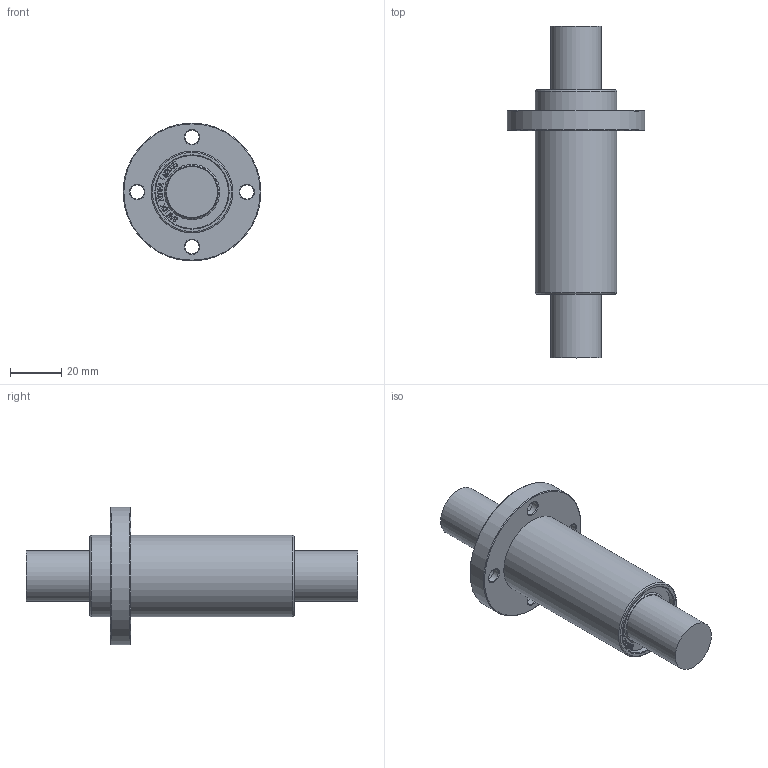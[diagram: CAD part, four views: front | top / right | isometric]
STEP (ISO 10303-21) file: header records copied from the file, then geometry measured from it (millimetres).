
FILE_DESCRIPTION(/* description */ (''),/* implementation_level */ '2;1');
FILE_NAME(/* name */ 'W:\(01) 2024년 홈페이지 CAD파일 최신화\LMEFP_L\IPT\LMEF20LUU.stp',/* time_stamp */ '2025-01-25T11:49:57+09:00',/* author */ ('서우현'),/* organization */ (''),/* preprocessor_version */ 'ST-DEVELOPER v17.2',/* originating_system */ 'Autodesk Inventor 2019',/* authorisation */ '');
FILE_SCHEMA (('AUTOMOTIVE_DESIGN { 1 0 10303 214 3 1 1 }'));
Length unit declared in the file: millimetre
Products named in the file (1): LM5
Bounding box: 54 x 130 x 54 mm (x, y, z)
Volume: 88702.3 mm3; surface area: 17470.9 mm2
Topology: 1 solids, 1 shells, 851 faces, 2397 edges, 1604 vertices
Faces by surface type: bspline 592, plane 228, cylinder 15, cone 14, torus 2
Full cylindrical faces by diameter (mm): 5.5 x4, 9.5 x4, 20 x2, 28.5 x2, 32 x2, 54 x1
Entity records: 29377 total; most frequent: CARTESIAN_POINT 10913, ORIENTED_EDGE 4794, EDGE_CURVE 2397, DIRECTION 1815, VERTEX_POINT 1604, B_SPLINE_CURVE_WITH_KNOTS 1184, LINE 1131, VECTOR 1131
